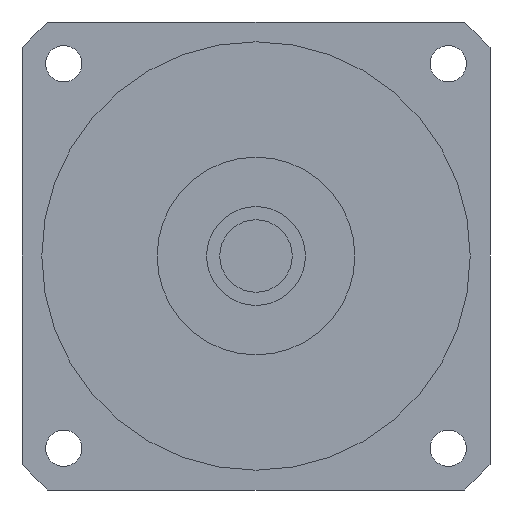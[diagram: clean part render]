
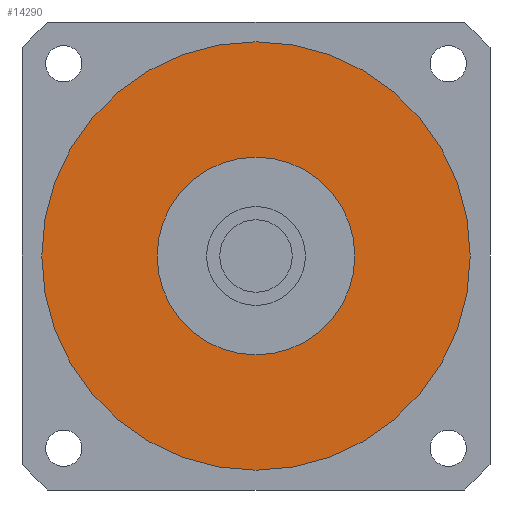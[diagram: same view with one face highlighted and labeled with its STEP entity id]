
A CAD part, left-side view. The second image highlights one B-rep face of the part: STEP entity #14290.
In plain terms, the highlighted planar face has unit normal (-1, 0, 0) as drawn and (0, 0, -1) by its records, which use the part's own axes.
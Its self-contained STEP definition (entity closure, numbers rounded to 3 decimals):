
#13710=CARTESIAN_POINT('',(65.,0.,-61.9));
#13720=VERTEX_POINT('',#13710);
#13810=CARTESIAN_POINT('',(-65.,0.,-61.9));
#13820=VERTEX_POINT('',#13810);
#13850=CARTESIAN_POINT('',(0.,0.,
-61.9));
#13860=DIRECTION('',(0.,0.,1.));
#13870=DIRECTION('',(0.,1.,0.));
#13880=AXIS2_PLACEMENT_3D('',#13850,#13860,#13870);
#13890=CIRCLE('',#13880,65.);
#13900=CARTESIAN_POINT('',(0.,65.,-61.9));
#13910=VERTEX_POINT('',#13900);
#13920=EDGE_CURVE('',#13910,#13820,#13890,.T.);
#13940=EDGE_CURVE('',#13720,#13910,#13890,.T.);
#13990=CARTESIAN_POINT('',(0.,0.,
-61.9));
#14000=DIRECTION('',(0.,0.,1.));
#14010=DIRECTION('',(-1.,0.,0.));
#14020=AXIS2_PLACEMENT_3D('',#13990,#14000,#14010);
#14030=PLANE('',#14020);
#14040=ORIENTED_EDGE('',*,*,#13920,.F.);
#14050=EDGE_CURVE('',#13820,#13720,#13890,.T.);
#14060=ORIENTED_EDGE('',*,*,#14050,.F.);
#14070=ORIENTED_EDGE('',*,*,#13940,.F.);
#14080=EDGE_LOOP('',(#14070,#14060,#14040));
#14090=FACE_OUTER_BOUND('',#14080,.T.);
#14100=CARTESIAN_POINT('',(0.,0.,
-61.9));
#14110=DIRECTION('',(0.,0.,1.));
#14120=DIRECTION('',(0.,1.,0.));
#14130=AXIS2_PLACEMENT_3D('',#14100,#14110,#14120);
#14140=CIRCLE('',#14130,30.);
#14150=CARTESIAN_POINT('',(-30.,0.,-61.9));
#14160=VERTEX_POINT('',#14150);
#14170=CARTESIAN_POINT('',(30.,0.,-61.9));
#14180=VERTEX_POINT('',#14170);
#14190=EDGE_CURVE('',#14160,#14180,#14140,.T.);
#14200=ORIENTED_EDGE('',*,*,#14190,.T.);
#14210=CARTESIAN_POINT('',(0.,30.,-61.9));
#14220=VERTEX_POINT('',#14210);
#14230=EDGE_CURVE('',#14220,#14160,#14140,.T.);
#14240=ORIENTED_EDGE('',*,*,#14230,.T.);
#14250=EDGE_CURVE('',#14180,#14220,#14140,.T.);
#14260=ORIENTED_EDGE('',*,*,#14250,.T.);
#14270=EDGE_LOOP('',(#14260,#14240,#14200));
#14280=FACE_BOUND('',#14270,.T.);
#14290=ADVANCED_FACE('',(#14090,#14280),#14030,.F.);
